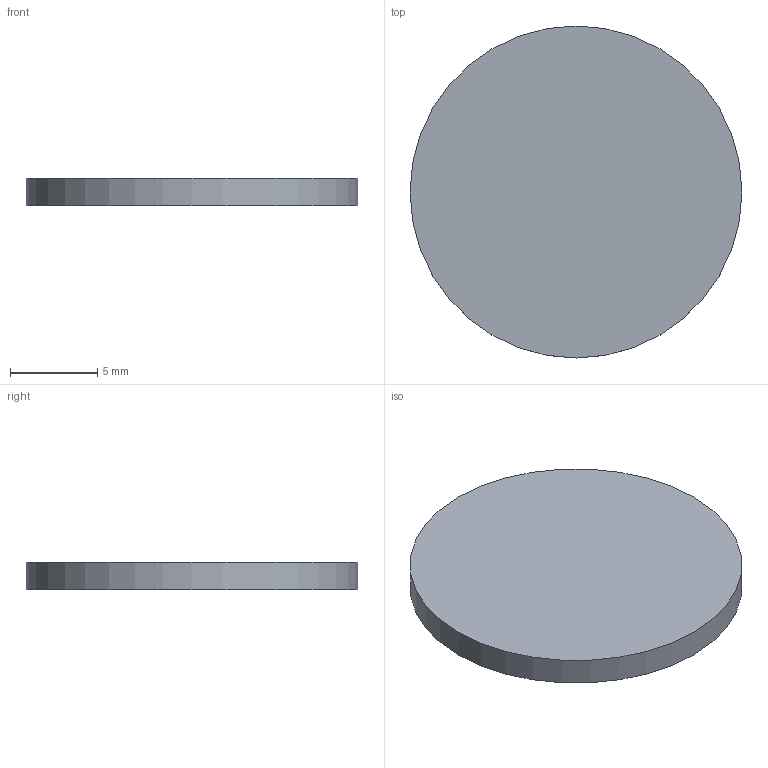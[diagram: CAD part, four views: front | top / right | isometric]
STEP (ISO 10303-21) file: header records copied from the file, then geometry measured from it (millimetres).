
FILE_DESCRIPTION(/* description */ (''),/* implementation_level */ '2;1');
FILE_NAME(/* name */ 'REF_DC1_bottom_disk_2.step',/* time_stamp */ '2026-11-14T21:40:02-08:00',/* author */ (''),/* organization */ (''),/* preprocessor_version */ 'ST-DEVELOPER v20.2',/* originating_system */ 'Autodesk Translation Framework v15.17.0.0',/* authorisation */ '');
FILE_SCHEMA (('AUTOMOTIVE_DESIGN { 1 0 10303 214 3 1 1 }'));
Length unit declared in the file: millimetre
Products named in the file (1): 2026-11-14-21-40-02-715
Bounding box: 19.05 x 19.05 x 1.59 mm (x, y, z)
Volume: 452.5 mm3; surface area: 665.1 mm2
Topology: 1 solids, 1 shells, 3 faces, 3 edges, 2 vertices
Faces by surface type: plane 2, cylinder 1
Full cylindrical faces by diameter (mm): 19.05 x1
Entity records: 92 total; most frequent: DIRECTION 13, CARTESIAN_POINT 9, ORIENTED_EDGE 6, AXIS2_PLACEMENT_3D 6, FACE_OUTER_BOUND 3, EDGE_LOOP 3, EDGE_CURVE 3, ADVANCED_FACE 3
